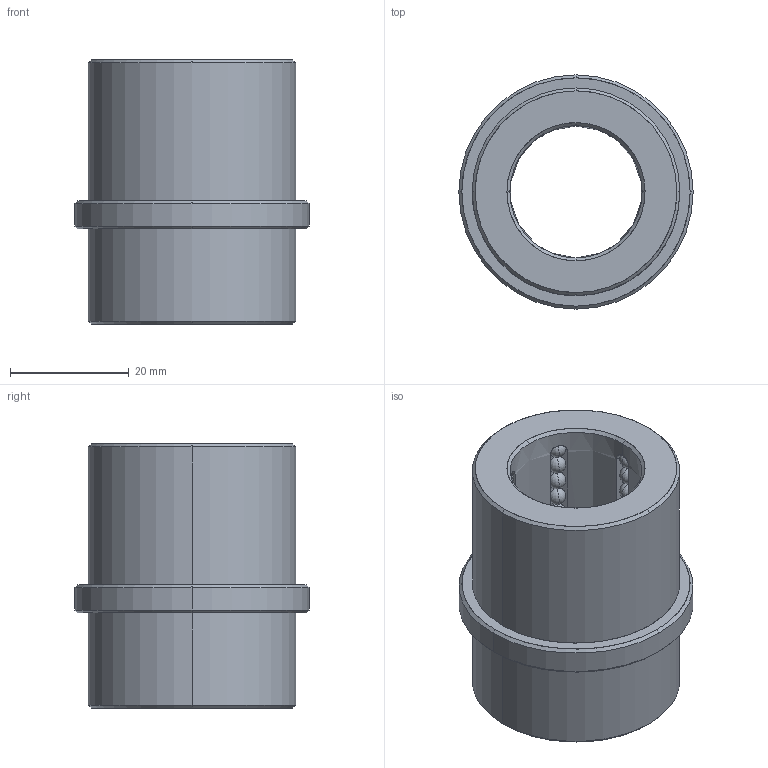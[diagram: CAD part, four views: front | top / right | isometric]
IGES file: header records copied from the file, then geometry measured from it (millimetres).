
Start section: START RECORD GO HERE.
Global section: file name: BGEB0875.igs; native system: DASSAULT SYSTEMES CATIA V5 R20 - www.3ds.com; preprocessor: CATIA Version 5 Release 20 ; author: Utente; organization: NB04-ASUS; date: 20200419.195550; units: millimetre
Bounding box: 39.42 x 39.42 x 44.45 mm (x, y, z)
Surface area: 12999.8 mm2 (no closed solid volume)
Topology: 0 solids, 0 shells, 354 faces, 1476 edges, 900 vertices
Faces by surface type: revolution 332, plane 22
